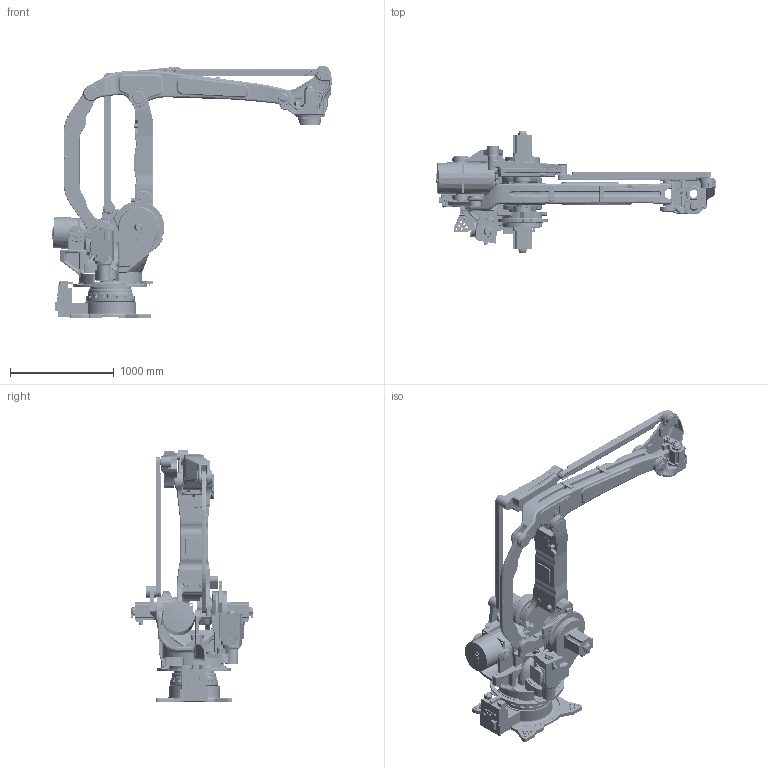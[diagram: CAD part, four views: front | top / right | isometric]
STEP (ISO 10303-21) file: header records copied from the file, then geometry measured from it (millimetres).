
FILE_DESCRIPTION(/* description */ (''),/* implementation_level */ '2;1');
FILE_NAME(/* name */ 'PL320.stp',/* time_stamp */ '2021-01-12T13:44:19+01:00',/* author */ (''),/* organization */ (''),/* preprocessor_version */ 'ST-DEVELOPER v16.7',/* originating_system */ 'SIEMENS PLM Software NX 12.0',/* authorisation */ '');
FILE_SCHEMA (('AUTOMOTIVE_DESIGN { 1 0 10303 214 3 1 1 1 }'));
Products named in the file (14): T_VIEW_04LXH320-A00; WRIST_VIEW_04LXH320-A00; LINKE_VIEW_04LXH320-A00; LINKD_VIEW_04LXH320-A00; LINKC_VIEW_04LXH320-A00; U_VIEW_04LXH320-A00; LINKA_VIEW_04LXH320-A00; LINKB_VIEW_04LXH320-A00; BALANCER2_VIEW_04LXH320-A00; BALANCER1_VIEW_04LXH320-A00; L_VIEW_04LXH320-A00; S_VIEW_04LXH320-A00; BASE_VIEW_04LXH320-A00; PL320
Assembly tree (13 placements, depth 2):
  PL320
    BASE_VIEW_04LXH320-A00
    S_VIEW_04LXH320-A00
    L_VIEW_04LXH320-A00
    BALANCER1_VIEW_04LXH320-A00
    BALANCER2_VIEW_04LXH320-A00
    LINKB_VIEW_04LXH320-A00
    LINKA_VIEW_04LXH320-A00
    U_VIEW_04LXH320-A00
    LINKC_VIEW_04LXH320-A00
    LINKD_VIEW_04LXH320-A00
    LINKE_VIEW_04LXH320-A00
    WRIST_VIEW_04LXH320-A00
    T_VIEW_04LXH320-A00
Bounding box: 2699.41 x 1179.82 x 2437.03 mm (x, y, z)
Volume: 431299779.6 mm3; surface area: 15651206.9 mm2
Topology: 13 solids, 15 shells, 8066 faces, 20937 edges, 12611 vertices
Faces by surface type: cylinder 2626, plane 2052, bspline 1412, torus 1218, cone 538, sphere 210, extrusion 10
Entity records: 339639 total; most frequent: CARTESIAN_POINT 146743, ORIENTED_EDGE 40880, DIRECTION 37160, EDGE_CURVE 20440, AXIS2_PLACEMENT_3D 15075, VERTEX_POINT 12611, CIRCLE 8377, EDGE_LOOP 8373
